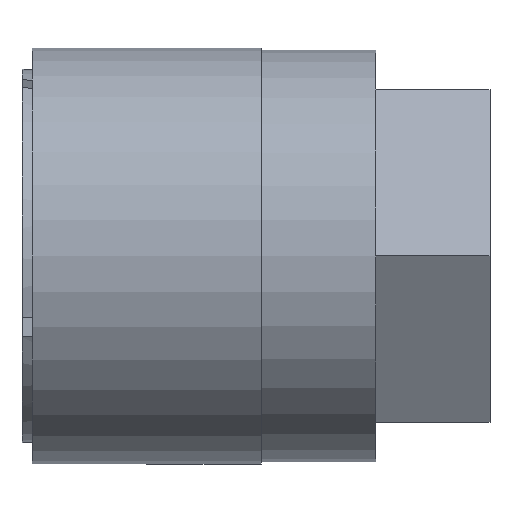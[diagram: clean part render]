
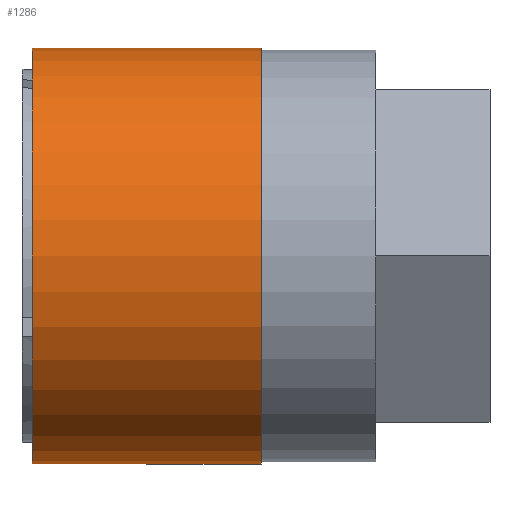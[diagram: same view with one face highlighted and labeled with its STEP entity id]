
A CAD part, front view. The second image highlights one B-rep face of the part: STEP entity #1286.
In plain terms, the highlighted cylindrical face has radius 10 mm (diameter 20 mm), a partial arc.
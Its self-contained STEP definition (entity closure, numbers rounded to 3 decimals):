
#55 = EDGE_LOOP ( 'NONE', ( #550, #553, #544, #539 ) ) ;
#85 = AXIS2_PLACEMENT_3D ( 'NONE', #1336, #1329, #1418 ) ;
#167 = VERTEX_POINT ( 'NONE', #1204 ) ;
#171 = VERTEX_POINT ( 'NONE', #1192 ) ;
#172 = VERTEX_POINT ( 'NONE', #1188 ) ;
#176 = VERTEX_POINT ( 'NONE', #1185 ) ;
#369 = VECTOR ( 'NONE', #990, 1000. ) ;
#373 = LINE ( 'NONE', #992, #369 ) ;
#383 = CIRCLE ( 'NONE', #669, 10. ) ;
#412 = FACE_OUTER_BOUND ( 'NONE', #55, .T. ) ;
#423 = CYLINDRICAL_SURFACE ( 'NONE', #620, 10. ) ;
#539 = ORIENTED_EDGE ( 'NONE', *, *, #597, .F. ) ;
#544 = ORIENTED_EDGE ( 'NONE', *, *, #1510, .T. ) ;
#550 = ORIENTED_EDGE ( 'NONE', *, *, #595, .F. ) ;
#553 = ORIENTED_EDGE ( 'NONE', *, *, #1512, .T. ) ;
#595 = EDGE_CURVE ( 'NONE', #167, #172, #373, .T. ) ;
#597 = EDGE_CURVE ( 'NONE', #172, #176, #383, .T. ) ;
#620 = AXIS2_PLACEMENT_3D ( 'NONE', #1082, #1084, #1089 ) ;
#669 = AXIS2_PLACEMENT_3D ( 'NONE', #989, #970, #969 ) ;
#969 = DIRECTION ( 'NONE',  ( 0., 0., 1. ) ) ;
#970 = DIRECTION ( 'NONE',  ( -1., 0., 0. ) ) ;
#989 = CARTESIAN_POINT ( 'NONE',  ( 0.5, 0., 0. ) ) ;
#990 = DIRECTION ( 'NONE',  ( -1., 0., 0. ) ) ;
#992 = CARTESIAN_POINT ( 'NONE',  ( 0., 0., -10. ) ) ;
#1082 = CARTESIAN_POINT ( 'NONE',  ( 0., 0., 0. ) ) ;
#1084 = DIRECTION ( 'NONE',  ( -1., 0., 0. ) ) ;
#1089 = DIRECTION ( 'NONE',  ( 0., 0., 1. ) ) ;
#1185 = CARTESIAN_POINT ( 'NONE',  ( 0.5, 0., 10. ) ) ;
#1188 = CARTESIAN_POINT ( 'NONE',  ( 0.5, 0., -10. ) ) ;
#1192 = CARTESIAN_POINT ( 'NONE',  ( 11.5, 0., 10. ) ) ;
#1204 = CARTESIAN_POINT ( 'NONE',  ( 11.5, 0., -10. ) ) ;
#1286 = ADVANCED_FACE ( 'NONE', ( #412 ), #423, .T. ) ;
#1329 = DIRECTION ( 'NONE',  ( -1., 0., 0. ) ) ;
#1334 = DIRECTION ( 'NONE',  ( -1., 0., 0. ) ) ;
#1335 = CARTESIAN_POINT ( 'NONE',  ( 0., 0., 10. ) ) ;
#1336 = CARTESIAN_POINT ( 'NONE',  ( 11.5, 0., 0. ) ) ;
#1418 = DIRECTION ( 'NONE',  ( 0., 0., 1. ) ) ;
#1510 = EDGE_CURVE ( 'NONE', #171, #176, #1603, .T. ) ;
#1512 = EDGE_CURVE ( 'NONE', #167, #171, #1610, .T. ) ;
#1603 = LINE ( 'NONE', #1335, #1604 ) ;
#1604 = VECTOR ( 'NONE', #1334, 1000. ) ;
#1610 = CIRCLE ( 'NONE', #85, 10. ) ;
